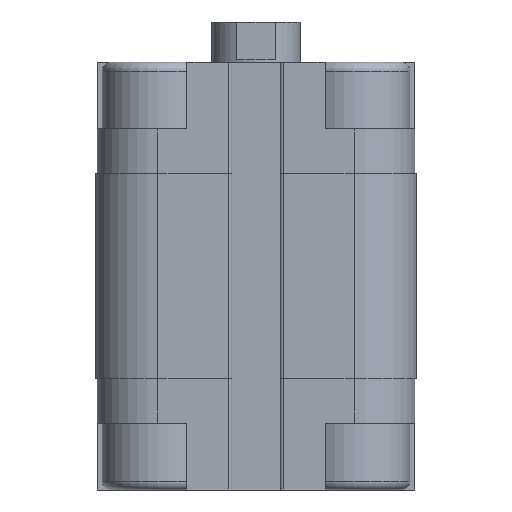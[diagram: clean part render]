
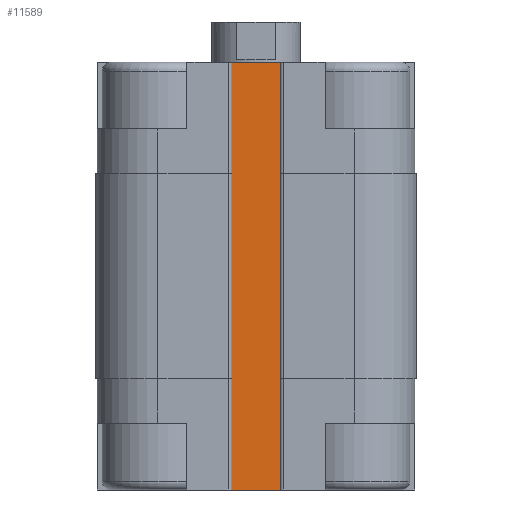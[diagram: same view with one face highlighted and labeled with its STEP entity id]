
A CAD part, front view. The second image highlights one B-rep face of the part: STEP entity #11589.
In plain terms, the highlighted planar face has unit normal (0, -1, 0).
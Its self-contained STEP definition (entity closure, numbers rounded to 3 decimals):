
#838 = AXIS2_PLACEMENT_3D ( 'NONE', #18132, #18042, #1046 ) ;
#1046 = DIRECTION ( 'NONE',  ( -1., 0., 0. ) ) ;
#2440 = LINE ( 'NONE', #16340, #7733 ) ;
#2917 = CARTESIAN_POINT ( 'NONE',  ( -3., -13., -48. ) ) ;
#3072 = DIRECTION ( 'NONE',  ( 0., 0., 1. ) ) ;
#3361 = DIRECTION ( 'NONE',  ( 1., 0., 0. ) ) ;
#4468 = LINE ( 'NONE', #6748, #5916 ) ;
#4772 = LINE ( 'NONE', #8883, #5126 ) ;
#4984 = VERTEX_POINT ( 'NONE', #13439 ) ;
#5126 = VECTOR ( 'NONE', #15966, 1000. ) ;
#5916 = VECTOR ( 'NONE', #3072, 1000. ) ;
#6686 = ORIENTED_EDGE ( 'NONE', *, *, #15030, .T. ) ;
#6748 = CARTESIAN_POINT ( 'NONE',  ( -3., -13., -12.5 ) ) ;
#7561 = CARTESIAN_POINT ( 'NONE',  ( 3., -13., -48. ) ) ;
#7733 = VECTOR ( 'NONE', #12428, 1000. ) ;
#7785 = CARTESIAN_POINT ( 'NONE',  ( -3., -13., 0. ) ) ;
#8565 = VERTEX_POINT ( 'NONE', #7561 ) ;
#8883 = CARTESIAN_POINT ( 'NONE',  ( -3., -13., -48. ) ) ;
#9369 = EDGE_LOOP ( 'NONE', ( #17920, #17314, #6686, #9588 ) ) ;
#9588 = ORIENTED_EDGE ( 'NONE', *, *, #9873, .T. ) ;
#9873 = EDGE_CURVE ( 'NONE', #8565, #4984, #2440, .T. ) ;
#10151 = EDGE_CURVE ( 'NONE', #16312, #4984, #13159, .T. ) ;
#10582 = EDGE_CURVE ( 'NONE', #14936, #16312, #4468, .T. ) ;
#11589 = ADVANCED_FACE ( 'NONE', ( #16540 ), #13552, .T. ) ;
#12428 = DIRECTION ( 'NONE',  ( 0., 0., 1. ) ) ;
#13159 = LINE ( 'NONE', #16234, #13697 ) ;
#13439 = CARTESIAN_POINT ( 'NONE',  ( 3., -13., 0. ) ) ;
#13552 = PLANE ( 'NONE',  #838 ) ;
#13697 = VECTOR ( 'NONE', #3361, 1000. ) ;
#14936 = VERTEX_POINT ( 'NONE', #2917 ) ;
#15030 = EDGE_CURVE ( 'NONE', #14936, #8565, #4772, .T. ) ;
#15966 = DIRECTION ( 'NONE',  ( 1., 0., 0. ) ) ;
#16234 = CARTESIAN_POINT ( 'NONE',  ( -3., -13., 0. ) ) ;
#16312 = VERTEX_POINT ( 'NONE', #7785 ) ;
#16340 = CARTESIAN_POINT ( 'NONE',  ( 3., -13., -12.5 ) ) ;
#16540 = FACE_OUTER_BOUND ( 'NONE', #9369, .T. ) ;
#17314 = ORIENTED_EDGE ( 'NONE', *, *, #10582, .F. ) ;
#17920 = ORIENTED_EDGE ( 'NONE', *, *, #10151, .F. ) ;
#18042 = DIRECTION ( 'NONE',  ( 0., -1., 0. ) ) ;
#18132 = CARTESIAN_POINT ( 'NONE',  ( -3., -13., -12.5 ) ) ;
